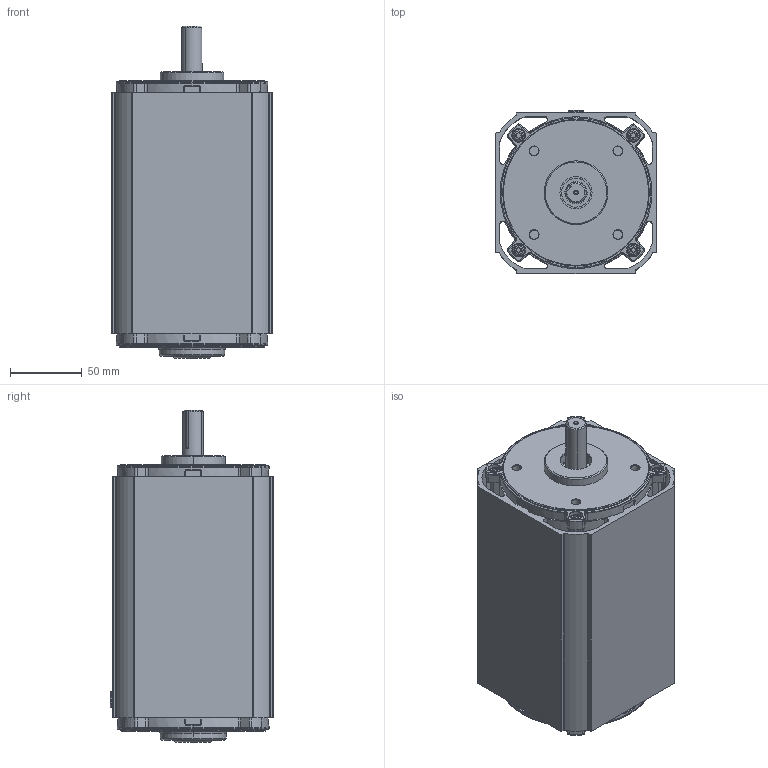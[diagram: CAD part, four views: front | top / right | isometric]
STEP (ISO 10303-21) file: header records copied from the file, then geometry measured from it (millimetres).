
FILE_DESCRIPTION (( 'STEP AP203' ), '1' );
FILE_NAME ('OUTLINE AC10080NV.STEP', '2007-10-30T17:50:56', ( 'eng-rjs2' ), ( 'groschopp' ), 'SwSTEP 2.0', 'SolidWorks 2008', '' );
FILE_SCHEMA (( 'CONFIG_CONTROL_DESIGN' ));
Length unit declared in the file: inch
Products named in the file (1): OUTLINE AC10080NV
Bounding box: 112.27 x 113.86 x 231.42 mm (x, y, z)
Surface area: 184624.8 mm2 (no closed solid volume)
Topology: 0 solids, 26 shells, 756 faces, 2166 edges, 1389 vertices
Faces by surface type: cylinder 264, plane 206, bspline 128, torus 81, cone 61, sphere 16
Entity records: 27686 total; most frequent: CARTESIAN_POINT 8852, DIRECTION 3901, ORIENTED_EDGE 3833, EDGE_CURVE 2166, AXIS2_PLACEMENT_3D 1592, VERTEX_POINT 1389, CIRCLE 963, EDGE_LOOP 789
